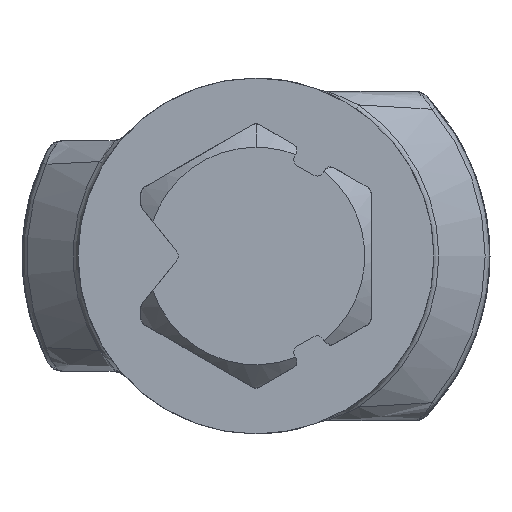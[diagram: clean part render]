
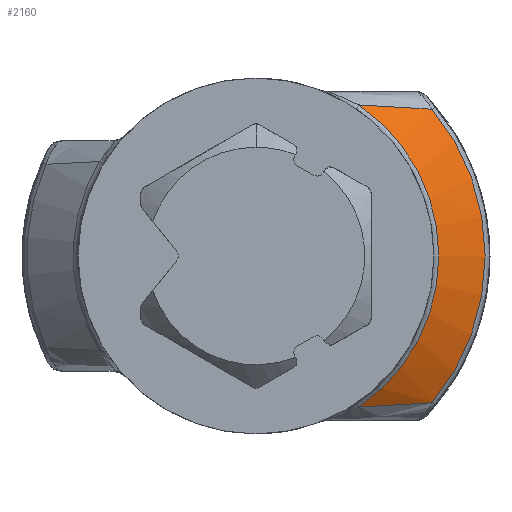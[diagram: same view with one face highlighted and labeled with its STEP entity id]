
A CAD part, front view. The second image highlights one B-rep face of the part: STEP entity #2160.
In plain terms, the highlighted conical face has half-angle 45 degrees and reference radius 7.1 mm.
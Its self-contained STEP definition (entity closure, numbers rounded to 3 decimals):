
#36 = DIRECTION ( 'NONE',  ( 0., 0., -1. ) ) ;
#38 = CARTESIAN_POINT ( 'NONE',  ( 3.122, 395.946, -4.584 ) ) ;
#90 = ORIENTED_EDGE ( 'NONE', *, *, #2703, .T. ) ;
#92 = CARTESIAN_POINT ( 'NONE',  ( 3.122, 395.946, 4.584 ) ) ;
#109 = DIRECTION ( 'NONE',  ( 0., 0., 1. ) ) ;
#264 = DIRECTION ( 'NONE',  ( 0., 1., 0. ) ) ;
#316 = CARTESIAN_POINT ( 'NONE',  ( 3.89, 396.369, -4.537 ) ) ;
#330 = EDGE_CURVE ( 'NONE', #1445, #1675, #2350, .T. ) ;
#369 = CONICAL_SURFACE ( 'NONE', #3133, 7.1, 0.785 ) ;
#527 = DIRECTION ( 'NONE',  ( 0., 0., 1. ) ) ;
#581 = CARTESIAN_POINT ( 'NONE',  ( 4.987, 397.094, -4.472 ) ) ;
#629 = FACE_OUTER_BOUND ( 'NONE', #3268, .T. ) ;
#730 = B_SPLINE_CURVE_WITH_KNOTS ( 'NONE', 3,
 ( #1693, #2759, #1439, #3290, #1705, #92 ),
 .UNSPECIFIED., .F., .F.,
 ( 4, 2, 4 ),
 ( 0., 0.002, 0.003 ),
 .UNSPECIFIED. ) ;
#947 = ORIENTED_EDGE ( 'NONE', *, *, #330, .T. ) ;
#1030 = CARTESIAN_POINT ( 'NONE',  ( 3.122, 395.946, 4.584 ) ) ;
#1035 = EDGE_CURVE ( 'NONE', #1579, #1801, #1301, .T. ) ;
#1301 = CIRCLE ( 'NONE', #2327, 5.546 ) ;
#1338 = CARTESIAN_POINT ( 'NONE',  ( 0., 397.5, 0. ) ) ;
#1439 = CARTESIAN_POINT ( 'NONE',  ( 4.628, 396.843, 4.492 ) ) ;
#1445 = VERTEX_POINT ( 'NONE', #3003 ) ;
#1579 = VERTEX_POINT ( 'NONE', #1030 ) ;
#1659 = DIRECTION ( 'NONE',  ( 0., -1., 0. ) ) ;
#1675 = VERTEX_POINT ( 'NONE', #2942 ) ;
#1693 = CARTESIAN_POINT ( 'NONE',  ( 5.341, 397.354, 4.453 ) ) ;
#1705 = CARTESIAN_POINT ( 'NONE',  ( 3.512, 396.146, 4.56 ) ) ;
#1716 = DIRECTION ( 'NONE',  ( 0., 1., 0. ) ) ;
#1801 = VERTEX_POINT ( 'NONE', #2185 ) ;
#1969 = B_SPLINE_CURVE_WITH_KNOTS ( 'NONE', 3,
 ( #38, #2167, #316, #2182, #581, #2447 ),
 .UNSPECIFIED., .F., .F.,
 ( 4, 2, 4 ),
 ( 0., 0.002, 0.003 ),
 .UNSPECIFIED. ) ;
#2160 = ADVANCED_FACE ( 'NONE', ( #629 ), #369, .T. ) ;
#2167 = CARTESIAN_POINT ( 'NONE',  ( 3.512, 396.146, -4.56 ) ) ;
#2182 = CARTESIAN_POINT ( 'NONE',  ( 4.628, 396.843, -4.492 ) ) ;
#2185 = CARTESIAN_POINT ( 'NONE',  ( 3.122, 395.946, -4.584 ) ) ;
#2212 = ORIENTED_EDGE ( 'NONE', *, *, #1035, .T. ) ;
#2327 = AXIS2_PLACEMENT_3D ( 'NONE', #3309, #1716, #109 ) ;
#2350 = CIRCLE ( 'NONE', #3244, 6.954 ) ;
#2447 = CARTESIAN_POINT ( 'NONE',  ( 5.341, 397.354, -4.453 ) ) ;
#2703 = EDGE_CURVE ( 'NONE', #1801, #1445, #1969, .T. ) ;
#2759 = CARTESIAN_POINT ( 'NONE',  ( 4.987, 397.094, 4.472 ) ) ;
#2842 = EDGE_CURVE ( 'NONE', #1675, #1579, #730, .T. ) ;
#2942 = CARTESIAN_POINT ( 'NONE',  ( 5.341, 397.354, 4.453 ) ) ;
#3003 = CARTESIAN_POINT ( 'NONE',  ( 5.341, 397.354, -4.453 ) ) ;
#3086 = ORIENTED_EDGE ( 'NONE', *, *, #2842, .T. ) ;
#3133 = AXIS2_PLACEMENT_3D ( 'NONE', #1338, #264, #527 ) ;
#3242 = CARTESIAN_POINT ( 'NONE',  ( 0., 397.354, 0. ) ) ;
#3244 = AXIS2_PLACEMENT_3D ( 'NONE', #3242, #1659, #36 ) ;
#3268 = EDGE_LOOP ( 'NONE', ( #3086, #2212, #90, #947 ) ) ;
#3290 = CARTESIAN_POINT ( 'NONE',  ( 3.89, 396.37, 4.536 ) ) ;
#3309 = CARTESIAN_POINT ( 'NONE',  ( 0., 395.946, 0. ) ) ;
